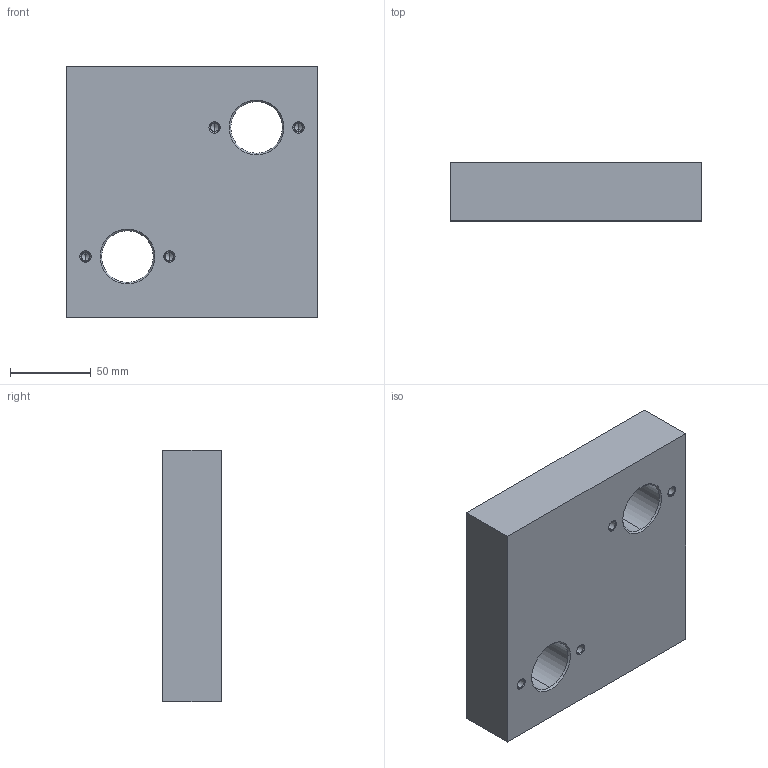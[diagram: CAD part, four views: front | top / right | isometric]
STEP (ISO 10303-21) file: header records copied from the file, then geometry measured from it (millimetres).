
FILE_DESCRIPTION (( 'STEP AP214' ), '1' );
FILE_NAME ('SDS300-C2-156x156x36.STEP', '2020-09-21T08:26:07', ( 'August' ), ( '' ), 'SwSTEP 2.0', 'SolidWorks 2018', '' );
FILE_SCHEMA (( 'AUTOMOTIVE_DESIGN' ));
Length unit declared in the file: millimetre
Products named in the file (1): SDS300-C2-156x156x36
Bounding box: 156 x 36 x 156 mm (x, y, z)
Volume: 816003.6 mm3; surface area: 76238.7 mm2
Topology: 1 solids, 1 shells, 54 faces, 120 edges, 68 vertices
Faces by surface type: cone 24, cylinder 20, plane 10
Entity records: 1474 total; most frequent: DIRECTION 278, CARTESIAN_POINT 235, ORIENTED_EDGE 224, EDGE_CURVE 112, AXIS2_PLACEMENT_3D 111, VERTEX_POINT 68, EDGE_LOOP 66, LINE 56
